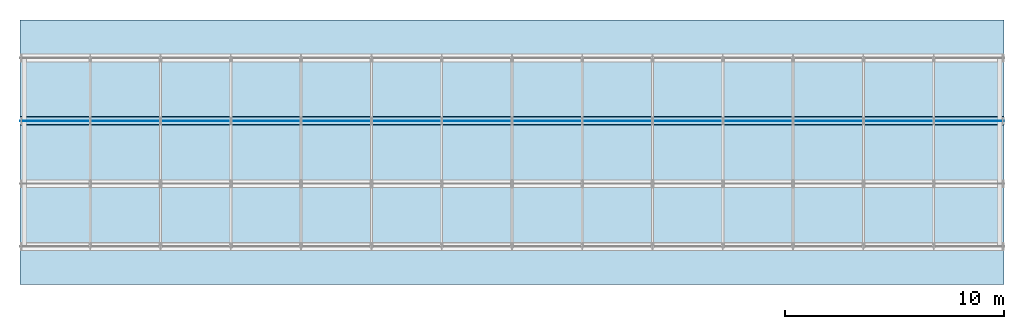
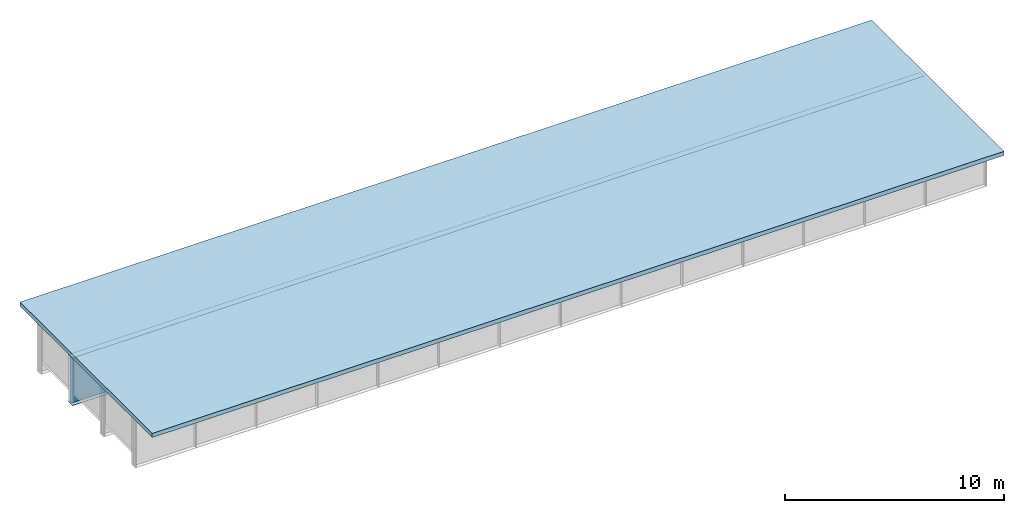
# One storey, part 9 of 13: 3 plates, 1 slab.
"""IFC4 building model written with IfcOpenShell, lengths in metres."""

from ifc_helpers import new_model, si_unit, frame, origin, origin_with_axes, origin_2d_with_axis, place, context, subcontext, project, spatial, polyline, rectangle, outline, extrude, element, save


model = new_model("IFC4")

# Units and contexts
model_context = context("Model", 3, precision=1e-05, world=origin())
body_context = subcontext(model_context, "Body", "Model", "MODEL_VIEW")
ifc_project = project(units=[si_unit("LENGTHUNIT", "METRE"), si_unit("AREAUNIT", "SQUARE_METRE"), si_unit("VOLUMEUNIT", "CUBIC_METRE"), si_unit("PLANEANGLEUNIT", "RADIAN")], contexts=[model_context])

# Site, building, storey
site_placement = place(None, origin_with_axes())
site = spatial("IfcSite", under=ifc_project, at=site_placement, Name="Default Site")
building_placement = place(site_placement, origin_with_axes())
building = spatial("IfcBuilding", under=site, at=building_placement, Name="Bridge Structure")
storey_placement = place(building_placement, origin_with_axes())
storey = spatial("IfcBuildingStorey", under=building, at=storey_placement, Name="Superstructure")

# Plates
plate_1_placement = place(storey_placement, frame((0.0, 1.4375, 0.0), z_axis=(1.0, 0.0, 0.0), x_axis=(0.0, 1.0, 0.0)))
element("IfcPlate", 1, at=plate_1_placement, inside=storey, Name="Girder Web 3", context=body_context, shape_type="SweptSolid", body=[
    extrude(rectangle(XDim=0.018000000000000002, YDim=2.614, at=origin_2d_with_axis()), origin_with_axes(), (0.0, 0.0, 1.0), 45.0),
])
plate_2_placement = place(storey_placement, frame((0.0, 1.4375, 1.315), z_axis=(1.0, 0.0, 0.0), x_axis=(0.0, 1.0, 0.0)))
element("IfcPlate", 2, at=plate_2_placement, inside=storey, Name="Top Flange 3", context=body_context, shape_type="SweptSolid", body=[
    extrude(rectangle(XDim=0.35000000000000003, YDim=0.016, at=origin_2d_with_axis()), origin_with_axes(), (0.0, 0.0, 1.0), 45.0),
])
plate_3_placement = place(storey_placement, frame((0.0, 1.4375, -1.317), z_axis=(1.0, 0.0, 0.0), x_axis=(0.0, 1.0, 0.0)))
element("IfcPlate", 3, at=plate_3_placement, inside=storey, Name="Bottom Flange 3", context=body_context, shape_type="SweptSolid", body=[
    extrude(rectangle(XDim=0.4, YDim=0.02, at=origin_2d_with_axis()), origin_with_axes(), (0.0, 0.0, 1.0), 45.0),
])

# Slab
slab_placement = place(storey_placement, frame((0.0, 0.0, 1.323), z_axis=(0.0, 0.0, 1.0), x_axis=(1.0, 0.0, 0.0)))
element("IfcSlab", 4, at=slab_placement, inside=storey, Name="Deck Slab", context=body_context, shape_type="SweptSolid", body=[
    extrude(outline(polyline([(0.0, -6.05), (45.0, -6.05), (45.0, 6.05), (0.0, 6.05), (0.0, -6.05)])), origin_with_axes(), (0.0, 0.0, 1.0), 0.23),
])

save(model, "model.ifc")
